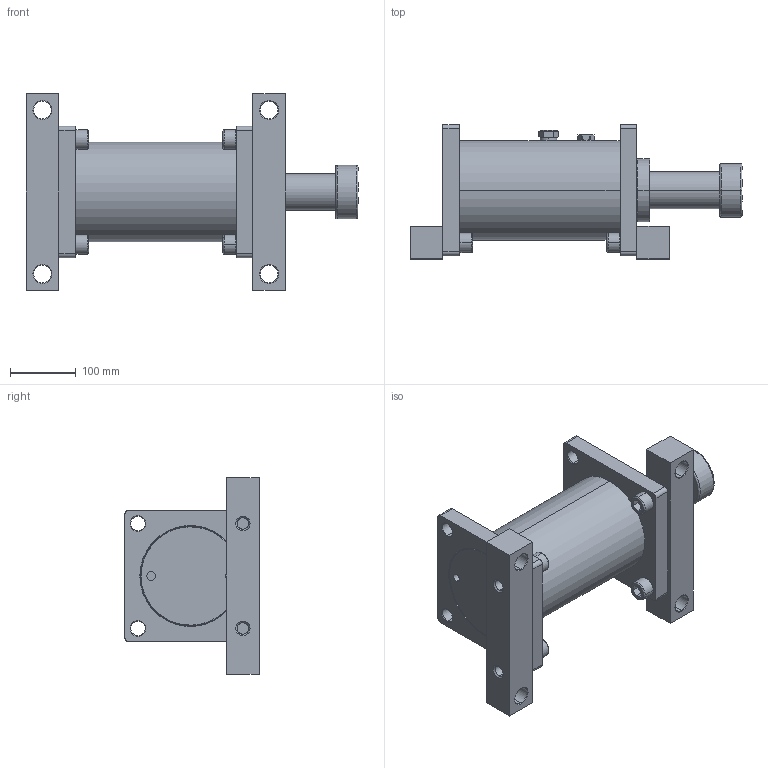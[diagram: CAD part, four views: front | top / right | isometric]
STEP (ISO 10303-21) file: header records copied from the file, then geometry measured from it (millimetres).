
FILE_DESCRIPTION (( 'STEP AP214' ), '1' );
FILE_NAME ('LDD3.5X4.STEP', '2019-01-16T08:06:04', ( 'user' ), ( 'Microsoft' ), 'SwSTEP 2.0', 'SolidWorks 2016', '' );
FILE_SCHEMA (( 'AUTOMOTIVE_DESIGN' ));
Length unit declared in the file: inch
Products named in the file (1): LDD3.5X4
Bounding box: 506.4 x 205 x 300 mm (x, y, z)
Surface area: 539859.3 mm2 (no closed solid volume)
Topology: 0 solids, 22 shells, 268 faces, 721 edges, 482 vertices
Faces by surface type: plane 91, cylinder 90, cone 55, bspline 32
Entity records: 14594 total; most frequent: CARTESIAN_POINT 7896, DIRECTION 1419, ORIENTED_EDGE 1298, EDGE_CURVE 721, AXIS2_PLACEMENT_3D 556, VERTEX_POINT 482, EDGE_LOOP 325, CIRCLE 319
